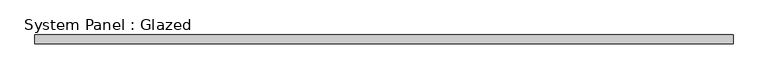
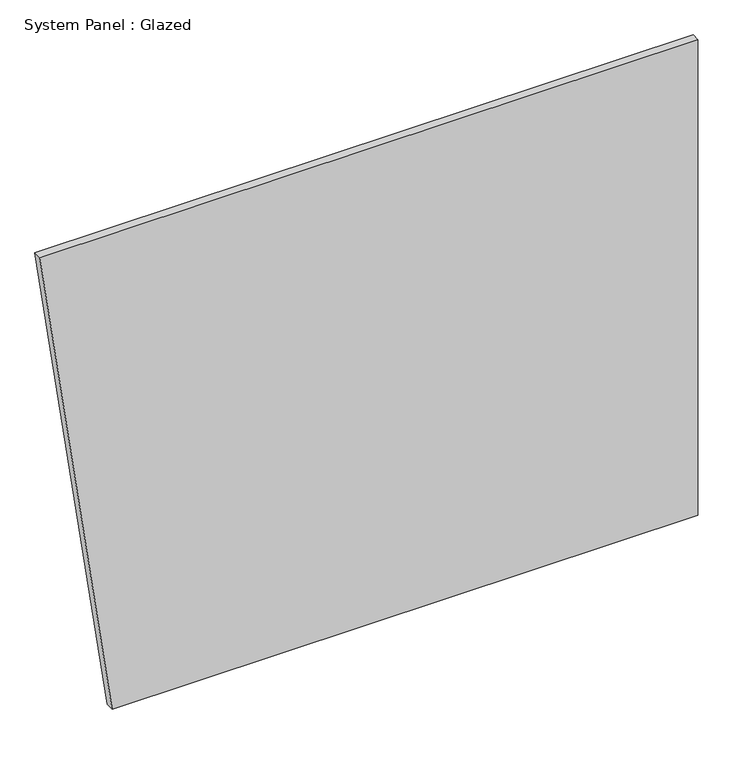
"""IFC4 building model written with IfcOpenShell, lengths in millimetres: plate geometry, System Panel : Glazed."""

from ifc_helpers import new_model, si_unit, frame, origin, place, context, project, spatial, polyline, outline, extrude, source, transform, mapped, element, save


def system_panel_glazed_172627b4(model_context):
    return source(origin(), model_context, "Body", "SweptSolid", [
        extrude(outline(polyline([(0.0, -778.4460433), (0.0, 997.7266189), (1524.0, 997.7266189), (1524.0, -997.7266189), (0.0, -778.4460433)])), frame((0.0, 19.05, 0.0), z_axis=(0.0, 1.0, 0.0), x_axis=(0.0, 0.0, 1.0)), (0.0, 0.0, 1.0), 25.4),
    ])


if __name__ == "__main__":
    model = new_model("IFC4")
    model_context = context("Model", 3, world=origin())
    ifc_project = project(units=[si_unit("LENGTHUNIT", "METRE", prefix="MILLI")], contexts=[model_context])
    site = spatial("IfcSite", under=ifc_project)
    building = spatial("IfcBuilding", under=site)
    placement = place(None, origin())
    system_panel_glazed_shape = system_panel_glazed_172627b4(model_context)
    element("IfcPlate", 1, ObjectType="System Panel : Glazed", at=placement, inside=building, context=model_context, shape_type="MappedRepresentation", body=[
        mapped(system_panel_glazed_shape, transform((0.0, 0.0, 0.0), x_axis=(1.0, 0.0, 0.0), y_axis=(0.0, 1.0, 0.0), z_axis=(0.0, 0.0, 1.0))),
    ])
    save(model, "model.ifc")
